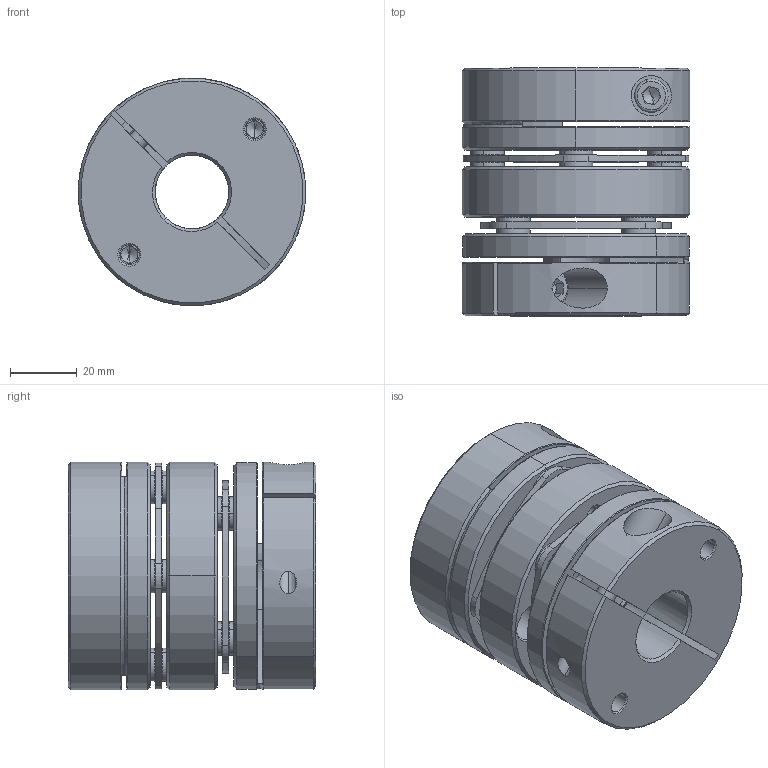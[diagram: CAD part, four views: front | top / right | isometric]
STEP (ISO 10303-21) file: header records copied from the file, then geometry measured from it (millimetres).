
FILE_DESCRIPTION (( 'STEP AP203' ), '1' );
FILE_NAME ('LD2-D68-22-22.STEP', '2021-10-26T08:37:04', ( '' ), ( '' ), 'SwSTEP 2.0', 'SolidWorks 2018', '' );
FILE_SCHEMA (( 'CONFIG_CONTROL_DESIGN' ));
Length unit declared in the file: millimetre
Products named in the file (2): LD2-D68-22-22; 錨璃102^LD2-D68
Assembly tree (1 placements, depth 2):
  LD2-D68-22-22
    錨璃102^LD2-D68
Bounding box: 68 x 74 x 68 mm (x, y, z)
Volume: 186763 mm3; surface area: 64428.6 mm2
Topology: 1 solids, 27 shells, 732 faces, 1696 edges, 1032 vertices
Faces by surface type: cylinder 256, cone 226, plane 220, torus 30
Entity records: 21398 total; most frequent: DIRECTION 3974, CARTESIAN_POINT 3912, ORIENTED_EDGE 3344, EDGE_CURVE 1672, AXIS2_PLACEMENT_3D 1614, VERTEX_POINT 1032, CIRCLE 878, EDGE_LOOP 868
